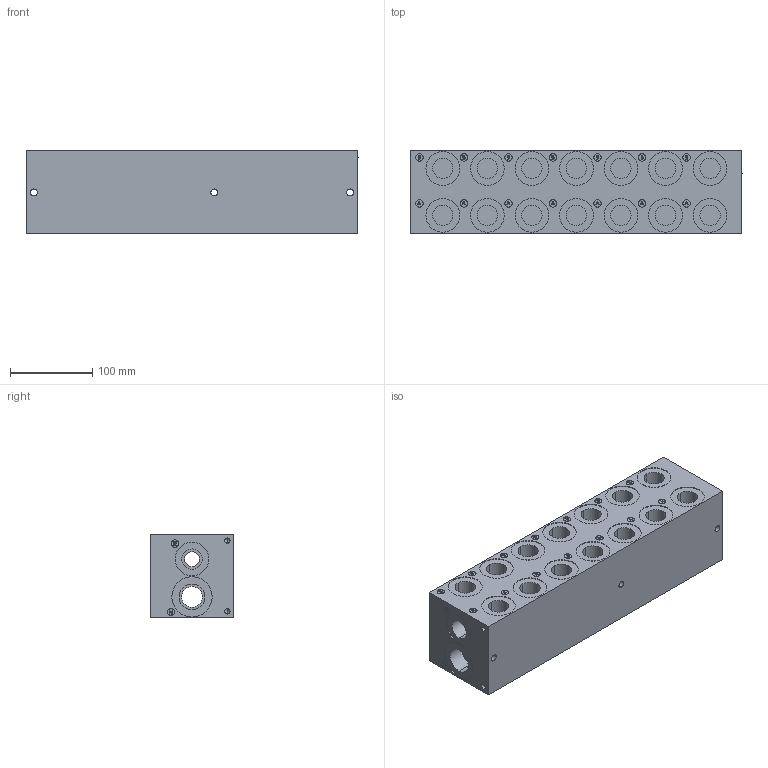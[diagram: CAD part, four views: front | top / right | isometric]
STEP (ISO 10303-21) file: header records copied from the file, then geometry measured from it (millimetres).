
FILE_DESCRIPTION (( 'STEP AP203' ), '1' );
FILE_NAME ('BMR-AHP03S2-07-1_Z.STEP', '2015-01-06T15:24:01', ( '' ), ( '' ), 'SwSTEP 2.0', 'SolidWorks 2014', '' );
FILE_SCHEMA (( 'CONFIG_CONTROL_DESIGN' ));
Length unit declared in the file: inch
Products named in the file (1): BMR-AHP03S2-07-1_Z
Bounding box: 403.35 x 101.6 x 101.6 mm (x, y, z)
Volume: 3655930.1 mm3; surface area: 281138.8 mm2
Topology: 1 solids, 1 shells, 883 faces, 2113 edges, 1297 vertices
Faces by surface type: plane 352, cylinder 314, cone 134, bspline 83
Entity records: 29354 total; most frequent: CARTESIAN_POINT 9451, DIRECTION 4043, ORIENTED_EDGE 3958, EDGE_CURVE 1979, AXIS2_PLACEMENT_3D 1429, VERTEX_POINT 1297, LINE 1185, VECTOR 1185
